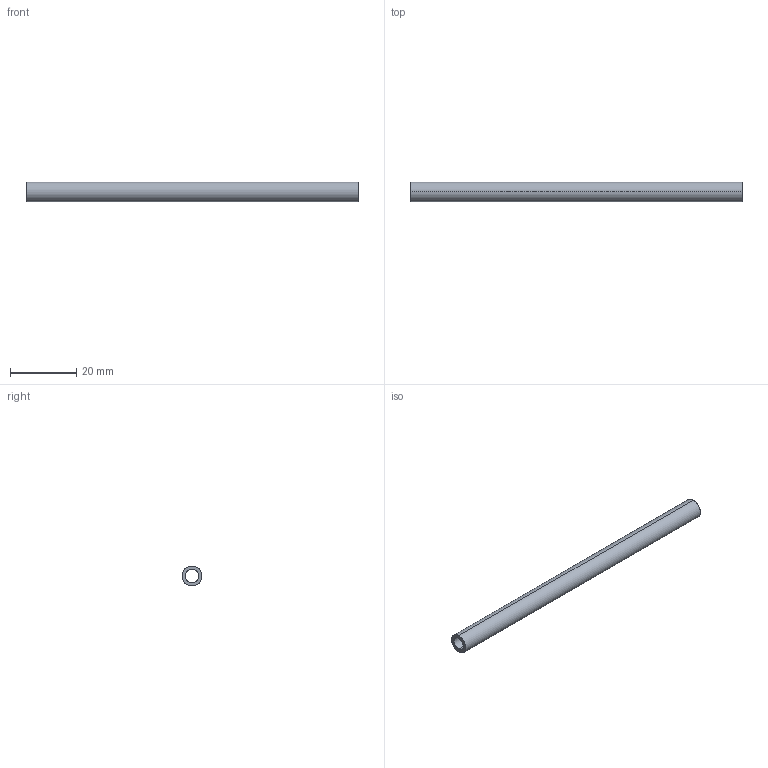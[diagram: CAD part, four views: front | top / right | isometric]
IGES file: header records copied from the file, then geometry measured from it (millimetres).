
Start section: SolidWorks IGES file using analytic representation for surfaces
Global section: file name: C:\Users\Toshiba\Desktop\100P-6-4.IGS; native system: SolidWorks 2014; preprocessor: SolidWorks 2014; author: Toshiba; date: 160308.163418; units: millimetre
Bounding box: 100 x 6 x 6 mm (x, y, z)
Surface area: 3173 mm2 (no closed solid volume)
Topology: 0 solids, 0 shells, 6 faces, 144 edges, 144 vertices
Faces by surface type: revolution 4, bspline 2
